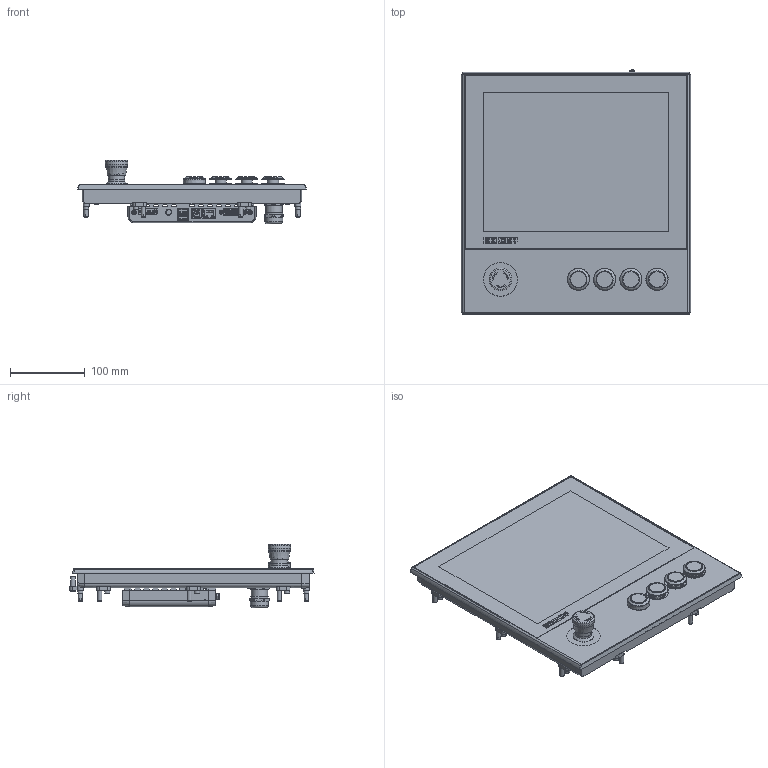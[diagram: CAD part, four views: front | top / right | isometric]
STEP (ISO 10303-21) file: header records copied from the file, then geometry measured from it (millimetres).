
FILE_DESCRIPTION(/* description */ ('-'),/* implementation_level */ '2;1');
FILE_NAME(/* name */ '0000019069.stp',/* time_stamp */ '2025-06-17T13:58:28+02:00',/* author */ ('-'),/* organization */ ('(c) Beckhoff Automation GmbH & Co. KG, 33415 Verl'),/* preprocessor_version */ 'ST-DEVELOPER v20',/* originating_system */ 'Autodesk Inventor 2024',/* authorisation */ '-');
FILE_SCHEMA (('AUTOMOTIVE_DESIGN { 1 0 10303 214 3 1 1 }'));
Products named in the file (1): CP2912_G002_Darstellung
Bounding box: 306 x 326.3 x 85.05 mm (x, y, z)
Volume: 2864223.5 mm3; surface area: 337724.1 mm2
Topology: 5 solids, 28 shells, 2730 faces, 7028 edges, 4607 vertices
Faces by surface type: plane 1764, cylinder 703, cone 134, bspline 63, torus 62, sphere 4
Full cylindrical faces by diameter (mm): 1.567 x2, 2.459 x12, 2.693 x2, 3 x6, 3.2 x6, 3.5 x2, 3.883 x4, 4 x2, 4.19 x4, 4.2 x4, 4.25 x4, 5.4 x9, 5.5 x12, 5.7 x6, 6 x11, 6.03 x1, 7 x10, 8 x1, 10 x1, 15 x4, 19 x4, 19.85 x4, 20.9 x4, 21.5 x1, 22 x2, 22.2 x1, 22.27 x4, 22.55 x1, 22.642 x4, 22.8 x1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
Entity records: 87844 total; most frequent: CARTESIAN_POINT 17219, ORIENTED_EDGE 14022, DIRECTION 13968, EDGE_CURVE 7011, LINE 4788, VECTOR 4788, VERTEX_POINT 4606, AXIS2_PLACEMENT_3D 4590
